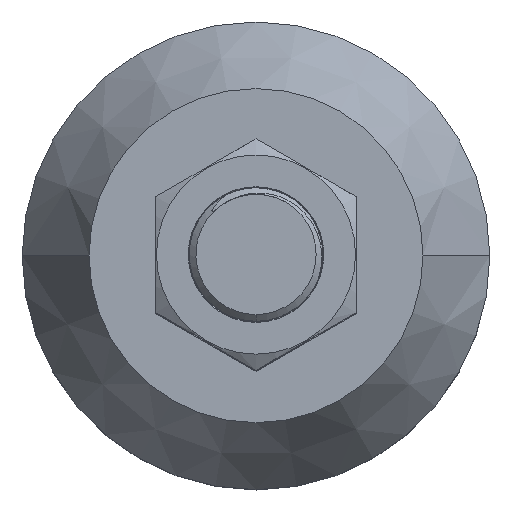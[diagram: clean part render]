
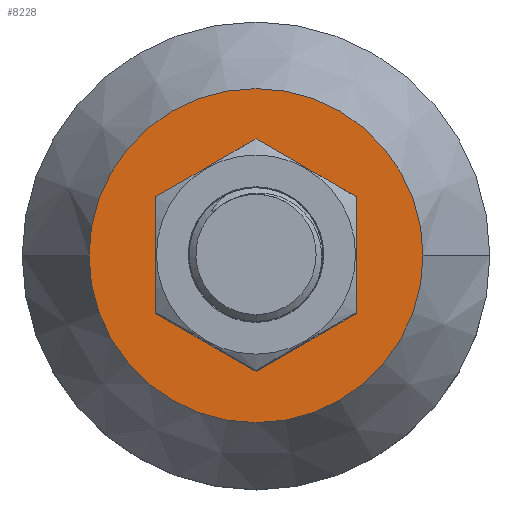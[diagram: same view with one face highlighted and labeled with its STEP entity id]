
A CAD part, top view. The second image highlights one B-rep face of the part: STEP entity #8228.
In plain terms, the highlighted planar face has unit normal (0, 0, 1).
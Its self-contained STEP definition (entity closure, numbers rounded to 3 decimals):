
#334 = DIRECTION ( 'NONE',  ( 0., 0., -1. ) ) ;
#1293 = CARTESIAN_POINT ( 'NONE',  ( 25., 0., 42. ) ) ;
#1640 = CARTESIAN_POINT ( 'NONE',  ( -25., 0., 42. ) ) ;
#2315 = ORIENTED_EDGE ( 'NONE', *, *, #10428, .F. ) ;
#2360 = DIRECTION ( 'NONE',  ( -1., 0., 0. ) ) ;
#2394 = CARTESIAN_POINT ( 'NONE',  ( 25., 0., 42. ) ) ;
#2710 = EDGE_LOOP ( 'NONE', ( #6644, #2315 ) ) ;
#4675 = DIRECTION ( 'NONE',  ( 0., 0., -1. ) ) ;
#5424 = PLANE ( 'NONE',  #5920 ) ;
#5920 = AXIS2_PLACEMENT_3D ( 'NONE', #1293, #8542, #2360 ) ;
#6551 = CARTESIAN_POINT ( 'NONE',  ( 0., 0., 42. ) ) ;
#6644 = ORIENTED_EDGE ( 'NONE', *, *, #9527, .F. ) ;
#7591 = DIRECTION ( 'NONE',  ( -1., 0., 0. ) ) ;
#8228 = ADVANCED_FACE ( 'NONE', ( #10073 ), #5424, .F. ) ;
#8542 = DIRECTION ( 'NONE',  ( 0., 0., -1. ) ) ;
#8672 = CIRCLE ( 'NONE', #10331, 25. ) ;
#9053 = VERTEX_POINT ( 'NONE', #2394 ) ;
#9527 = EDGE_CURVE ( 'NONE', #11160, #9053, #9836, .T. ) ;
#9836 = CIRCLE ( 'NONE', #11614, 25. ) ;
#10073 = FACE_OUTER_BOUND ( 'NONE', #2710, .T. ) ;
#10331 = AXIS2_PLACEMENT_3D ( 'NONE', #6551, #334, #7591 ) ;
#10428 = EDGE_CURVE ( 'NONE', #9053, #11160, #8672, .T. ) ;
#10854 = CARTESIAN_POINT ( 'NONE',  ( 0., 0., 42. ) ) ;
#11160 = VERTEX_POINT ( 'NONE', #1640 ) ;
#11614 = AXIS2_PLACEMENT_3D ( 'NONE', #10854, #4675, #11895 ) ;
#11895 = DIRECTION ( 'NONE',  ( -1., 0., 0. ) ) ;
